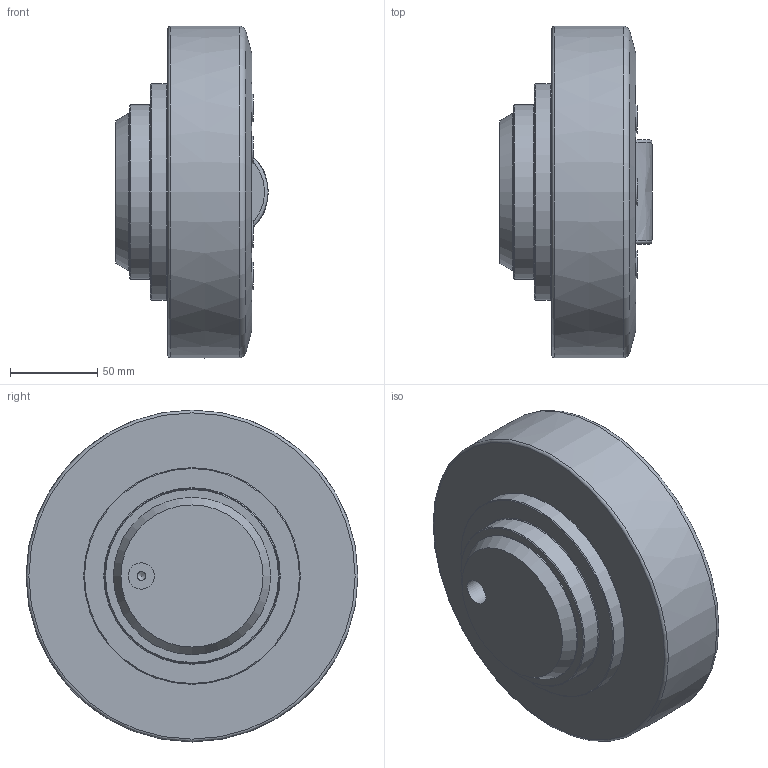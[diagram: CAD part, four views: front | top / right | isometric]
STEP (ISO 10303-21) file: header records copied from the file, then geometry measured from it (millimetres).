
FILE_DESCRIPTION(/* description */ ('-','CAx-IF Rec.Pracs.---Representation and Presentation of Product Manufacturing Information (PMI)---4.0---2014-10-13'),/* implementation_level */ '2;1');
FILE_NAME(/* name */ 'c:\temp\28dc2eaa-3d3a-4ed8-8c42-1b474095657c\af17c637-f1ba-453a-90b5-2aea8d9ee3d9.stp',/* time_stamp */ '2020-04-01T16:09:45+02:00',/* author */ ('-'),/* organization */ ('NTI CADcenter A/S'),/* preprocessor_version */ 'ST-DEVELOPER v18',/* originating_system */ 'Autodesk Inventor 2020',/* authorisation */ '-');
FILE_SCHEMA (('AP242_MANAGED_MODEL_BASED_3D_ENGINEERING_MIM_LF { 1 0 10303 442 1 1 4 }'));
Length unit declared in the file: millimetre
Products named in the file (1): MR 190.0610_Kontur
Bounding box: 87.5 x 189.99 x 190 mm (x, y, z)
Volume: 1615117.5 mm3; surface area: 93127.7 mm2
Topology: 1 solids, 1 shells, 83 faces, 205 edges, 142 vertices
Faces by surface type: plane 57, cylinder 12, torus 6, cone 6, bspline 2
Full cylindrical faces by diameter (mm): 2.5 x1, 4.917 x1, 15 x1, 15.6 x6, 90 x1, 100 x1, 124 x1
Entity records: 2627 total; most frequent: CARTESIAN_POINT 550, DIRECTION 428, ORIENTED_EDGE 408, EDGE_CURVE 204, AXIS2_PLACEMENT_3D 150, VERTEX_POINT 142, LINE 128, VECTOR 128
